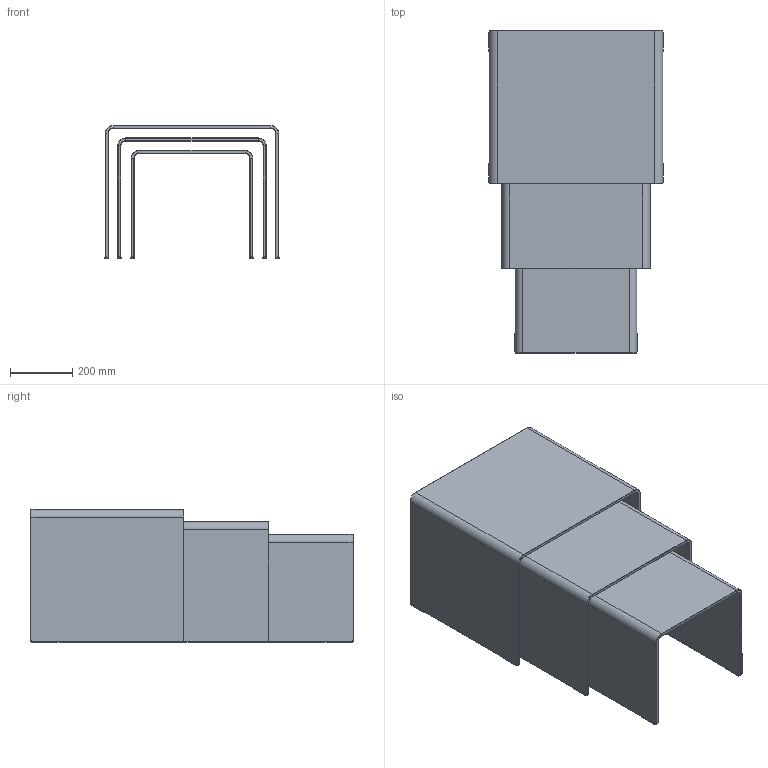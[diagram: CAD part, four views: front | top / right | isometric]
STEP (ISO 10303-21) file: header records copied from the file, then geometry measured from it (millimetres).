
FILE_DESCRIPTION((''),'2;1');
FILE_NAME('C:\AutodeskVault\AreaLavoro\Progetti\SoVeT Italia\2. Tavolini_Coffee tables\Trix\Web file\Trix Web\P4129.stp','2012-06-14T16:48:46',('Gianluca'),('So.Ve.T. s.r.l.'),'Autodesk Inventor 2013','Autodesk Inventor 2013','IL PROGETTO E'' DI ESCLUSIVA PROPRIETA'' DELLA SO.VE.T. srl. E'' VIETATA OGNI RIPRODUZIONE TOTALE O PARZIALE E QUALSIASI UTILIZZO NON AUTORIZZATO. ');
FILE_SCHEMA(('AUTOMOTIVE_DESIGN { 1 0 10303 214 1 1 1 1 }'));
Length unit declared in the file: millimetre
Products named in the file (1): P4129 Contorno semplificato
Bounding box: 557.6 x 1033.48 x 426.2 mm (x, y, z)
Volume: 16193064.1 mm3; surface area: 3338321.2 mm2
Topology: 3 solids, 3 shells, 402 faces, 1032 edges, 612 vertices
Faces by surface type: plane 234, cylinder 120, cone 48
Entity records: 12423 total; most frequent: DIRECTION 2126, ORIENTED_EDGE 2064, CARTESIAN_POINT 2047, EDGE_CURVE 1032, VECTOR 744, LINE 744, AXIS2_PLACEMENT_3D 691, VERTEX_POINT 612
